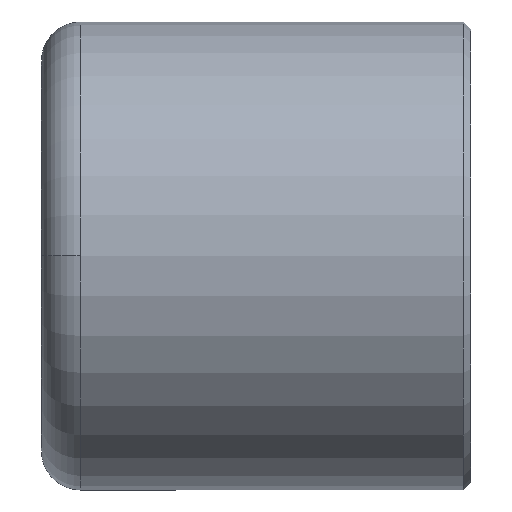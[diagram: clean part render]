
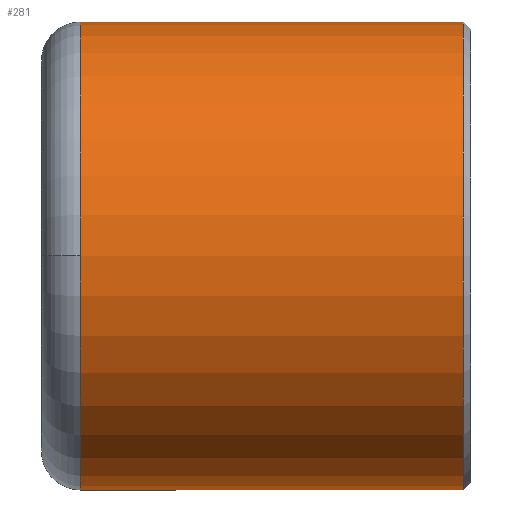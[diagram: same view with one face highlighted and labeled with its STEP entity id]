
A CAD part, top view. The second image highlights one B-rep face of the part: STEP entity #281.
In plain terms, the highlighted cylindrical face has radius 6.6 mm (diameter 13.2 mm), a partial arc.
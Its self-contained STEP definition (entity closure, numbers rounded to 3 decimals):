
#78=CARTESIAN_POINT('',(-5.25,0.,6.6));
#79=VERTEX_POINT('',#78);
#87=CARTESIAN_POINT('',(-5.25,6.6,0.0));
#88=VERTEX_POINT('',#87);
#89=CARTESIAN_POINT('',(-5.25,0.,0.0));
#90=DIRECTION('',(1.0,0.0,0.0));
#91=DIRECTION('',(0.0,1.0,0.0));
#92=AXIS2_PLACEMENT_3D('',#89,#90,#91);
#93=CIRCLE('',#92,6.6);
#94=EDGE_CURVE('',#88,#79,#93,.T.);
#241=CARTESIAN_POINT('',(0.25,0.,0.0));
#242=DIRECTION('',(1.0,0.,0.0));
#243=DIRECTION('',(0.0,1.0,0.0));
#244=AXIS2_PLACEMENT_3D('',#241,#242,#243);
#245=CYLINDRICAL_SURFACE('',#244,6.6);
#246=CARTESIAN_POINT('',(5.55,6.6,0.));
#247=VERTEX_POINT('',#246);
#248=CARTESIAN_POINT('',(-5.25,6.6,0.0));
#249=DIRECTION('',(1.0,0.0,0.0));
#250=VECTOR('',#249,10.8);
#251=LINE('',#248,#250);
#252=EDGE_CURVE('',#88,#247,#251,.T.);
#253=ORIENTED_EDGE('',*,*,#252,.F.);
#254=ORIENTED_EDGE('',*,*,#94,.T.);
#255=CARTESIAN_POINT('',(-5.25,-6.6,0.));
#256=VERTEX_POINT('',#255);
#257=CARTESIAN_POINT('',(-5.25,0.,0.0));
#258=DIRECTION('',(1.0,0.0,0.0));
#259=DIRECTION('',(0.0,1.0,0.0));
#260=AXIS2_PLACEMENT_3D('',#257,#258,#259);
#261=CIRCLE('',#260,6.6);
#262=EDGE_CURVE('',#79,#256,#261,.T.);
#263=ORIENTED_EDGE('',*,*,#262,.T.);
#264=CARTESIAN_POINT('',(5.55,-6.6,0.));
#265=VERTEX_POINT('',#264);
#266=CARTESIAN_POINT('',(5.55,-6.6,0.));
#267=DIRECTION('',(-1.0,0.0,0.0));
#268=VECTOR('',#267,10.8);
#269=LINE('',#266,#268);
#270=EDGE_CURVE('',#265,#256,#269,.T.);
#271=ORIENTED_EDGE('',*,*,#270,.F.);
#272=CARTESIAN_POINT('',(5.55,0.,0.0));
#273=DIRECTION('',(1.0,0.0,0.0));
#274=DIRECTION('',(0.0,1.0,0.0));
#275=AXIS2_PLACEMENT_3D('',#272,#273,#274);
#276=CIRCLE('',#275,6.6);
#277=EDGE_CURVE('',#247,#265,#276,.T.);
#278=ORIENTED_EDGE('',*,*,#277,.F.);
#279=EDGE_LOOP('',(#253,#254,#263,#271,#278));
#280=FACE_OUTER_BOUND('',#279,.T.);
#281=ADVANCED_FACE('',(#280),#245,.T.);
